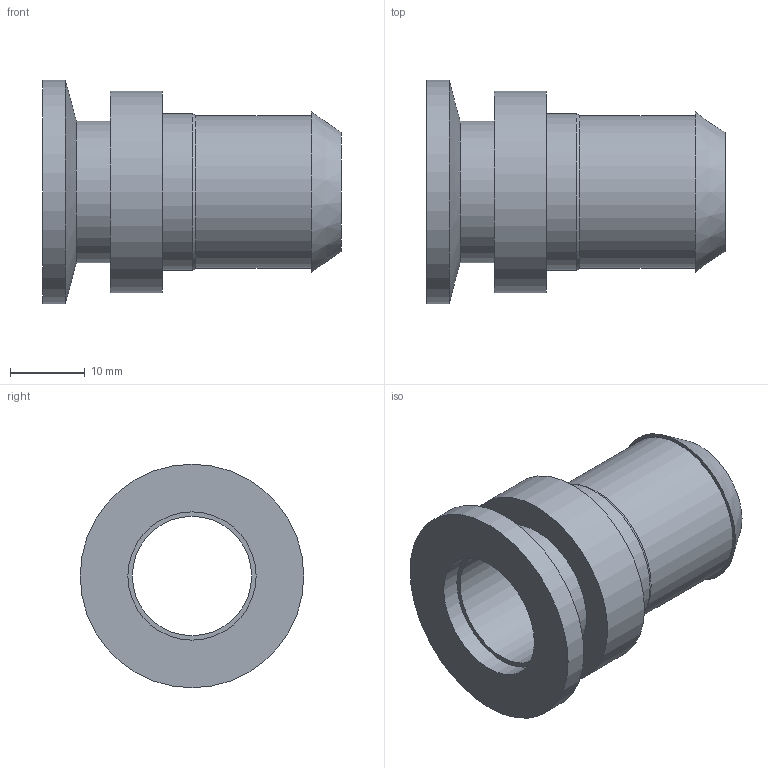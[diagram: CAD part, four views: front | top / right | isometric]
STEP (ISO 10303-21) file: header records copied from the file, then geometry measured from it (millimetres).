
FILE_DESCRIPTION( ( 'Unknown' ), '1' );
FILE_NAME( 'X:/Daten ( aktueller Bestand )/Projekte und Zeichnungen/Solid Edge/6 Verbindungsbauteile/Alu/2066.stp', 'Unknown', ( 'Unknown' ), ( 'Unknown' ), 'XStep 1.0', 'Unknown', ' ' );
FILE_SCHEMA( ( 'automotive_design' ) );
Length unit declared in the file: millimetre
Products named in the file (1): 1
Bounding box: 40 x 30 x 30 mm (x, y, z)
Volume: 7781 mm3; surface area: 6244.1 mm2
Topology: 1 solids, 1 shells, 15 faces, 25 edges, 15 vertices
Faces by surface type: cylinder 7, plane 5, cone 3
Full cylindrical faces by diameter (mm): 16 x1, 17.2 x1, 19 x1, 20.5 x1, 21 x1, 27 x1, 30 x1
Entity records: 444 total; most frequent: DIRECTION 62, CARTESIAN_POINT 46, AXIS2_PLACEMENT_3D 31, EDGE_LOOP 30, ORIENTED_EDGE 30, FACE_OUTER_BOUND 22, STYLED_ITEM 15, PRESENTATION_STYLE_ASSIGNMENT 15
